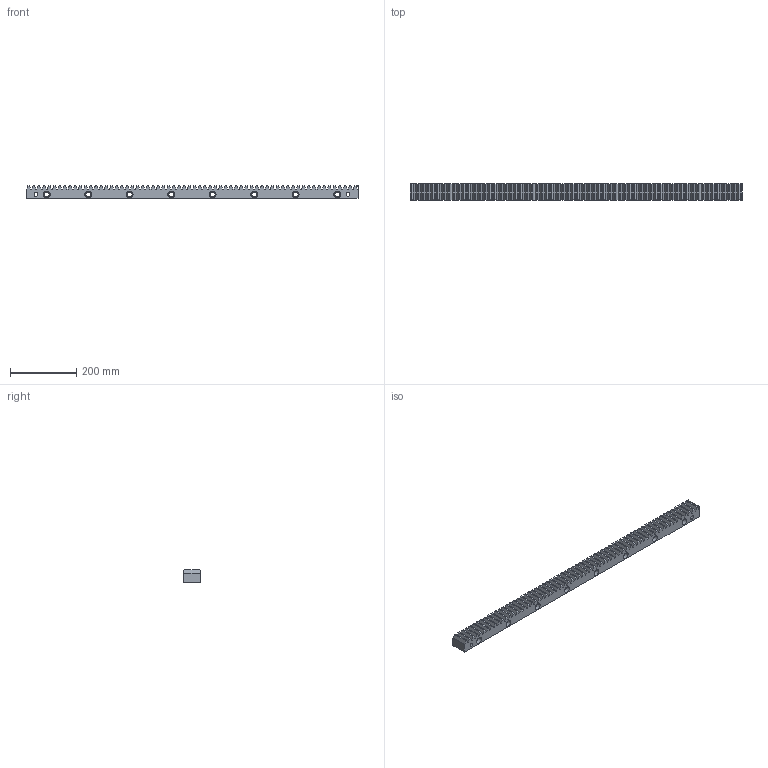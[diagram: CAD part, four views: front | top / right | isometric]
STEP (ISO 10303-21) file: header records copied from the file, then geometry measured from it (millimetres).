
FILE_DESCRIPTION (( 'STEP AP203' ), '1' );
FILE_NAME ('FX3 22 161 211.STEP', '2023-04-06T05:43:13', ( '' ), ( '' ), 'SwSTEP 2.0', 'SolidWorks 2010', '' );
FILE_SCHEMA (( 'CONFIG_CONTROL_DESIGN' ));
Length unit declared in the file: millimetre
Products named in the file (1): FX3 22 161 211
Bounding box: 1005.31 x 49 x 39 mm (x, y, z)
Volume: 1570500.5 mm3; surface area: 237882.4 mm2
Topology: 1 solids, 1 shells, 1421 faces, 3984 edges, 2656 vertices
Faces by surface type: plane 1015, bspline 370, cylinder 36
Entity records: 71823 total; most frequent: CARTESIAN_POINT 37528, ORIENTED_EDGE 7968, DIRECTION 5420, EDGE_CURVE 3984, VECTOR 3172, LINE 3172, VERTEX_POINT 2656, EDGE_LOOP 1532
